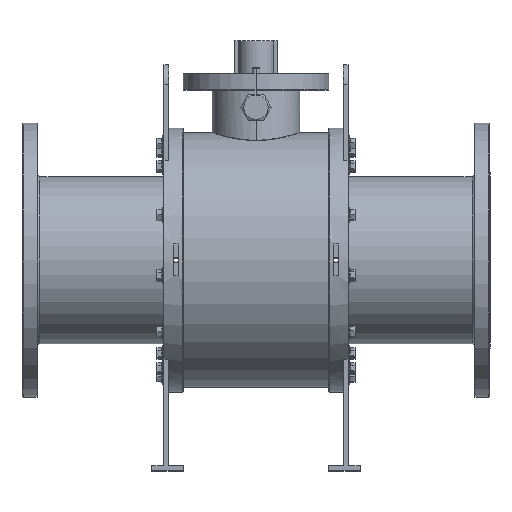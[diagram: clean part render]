
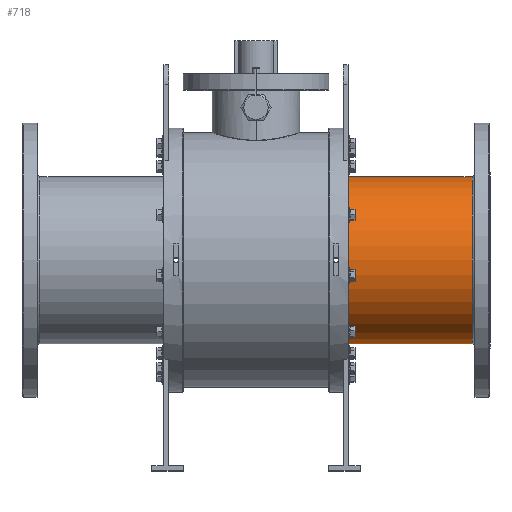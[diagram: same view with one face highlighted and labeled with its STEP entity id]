
A CAD part, top view. The second image highlights one B-rep face of the part: STEP entity #718.
In plain terms, the highlighted cylindrical face has radius 172.5 mm (diameter 345 mm), a partial arc.
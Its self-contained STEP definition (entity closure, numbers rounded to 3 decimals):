
#337 = EDGE_CURVE ( 'NONE', #5944, #6730, #1005, .T. ) ;
#534 = CARTESIAN_POINT ( 'NONE',  ( 445.5, -172.5, 0. ) ) ;
#621 = DIRECTION ( 'NONE',  ( 0., 1., 0. ) ) ;
#718 = ADVANCED_FACE ( 'NONE', ( #11438 ), #6890, .T. ) ;
#978 = EDGE_CURVE ( 'NONE', #5944, #8200, #6418, .T. ) ;
#1005 = CIRCLE ( 'NONE', #8940, 172.5 ) ;
#2599 = DIRECTION ( 'NONE',  ( 0., 0., -1. ) ) ;
#2789 = AXIS2_PLACEMENT_3D ( 'NONE', #13412, #3726, #2599 ) ;
#3169 = CARTESIAN_POINT ( 'NONE',  ( -482.5, 172.5, 0. ) ) ;
#3308 = CARTESIAN_POINT ( 'NONE',  ( 445.5, 172.5, 0. ) ) ;
#3429 = CARTESIAN_POINT ( 'NONE',  ( 190., 172.5, 0. ) ) ;
#3726 = DIRECTION ( 'NONE',  ( 1., 0., 0. ) ) ;
#4843 = DIRECTION ( 'NONE',  ( -1., 0., 0. ) ) ;
#5084 = ORIENTED_EDGE ( 'NONE', *, *, #978, .F. ) ;
#5873 = ORIENTED_EDGE ( 'NONE', *, *, #5931, .T. ) ;
#5931 = EDGE_CURVE ( 'NONE', #6136, #8200, #6176, .T. ) ;
#5944 = VERTEX_POINT ( 'NONE', #534 ) ;
#6136 = VERTEX_POINT ( 'NONE', #3429 ) ;
#6176 = CIRCLE ( 'NONE', #2789, 172.5 ) ;
#6418 = LINE ( 'NONE', #13844, #7557 ) ;
#6730 = VERTEX_POINT ( 'NONE', #3308 ) ;
#6890 = CYLINDRICAL_SURFACE ( 'NONE', #12980, 172.5 ) ;
#6952 = ORIENTED_EDGE ( 'NONE', *, *, #337, .T. ) ;
#7557 = VECTOR ( 'NONE', #12653, 1000. ) ;
#8200 = VERTEX_POINT ( 'NONE', #12634 ) ;
#8561 = LINE ( 'NONE', #3169, #9690 ) ;
#8940 = AXIS2_PLACEMENT_3D ( 'NONE', #11477, #13772, #621 ) ;
#9104 = ORIENTED_EDGE ( 'NONE', *, *, #13674, .T. ) ;
#9690 = VECTOR ( 'NONE', #11608, 1000. ) ;
#11438 = FACE_OUTER_BOUND ( 'NONE', #11766, .T. ) ;
#11477 = CARTESIAN_POINT ( 'NONE',  ( 445.5, 0., 0. ) ) ;
#11608 = DIRECTION ( 'NONE',  ( -1., 0., 0. ) ) ;
#11766 = EDGE_LOOP ( 'NONE', ( #6952, #9104, #5873, #5084 ) ) ;
#12408 = DIRECTION ( 'NONE',  ( 0., -1., 0. ) ) ;
#12634 = CARTESIAN_POINT ( 'NONE',  ( 190., -172.5, 0. ) ) ;
#12653 = DIRECTION ( 'NONE',  ( -1., 0., 0. ) ) ;
#12980 = AXIS2_PLACEMENT_3D ( 'NONE', #13463, #4843, #12408 ) ;
#13412 = CARTESIAN_POINT ( 'NONE',  ( 190., 0., 0. ) ) ;
#13463 = CARTESIAN_POINT ( 'NONE',  ( -482.5, 0., 0. ) ) ;
#13674 = EDGE_CURVE ( 'NONE', #6730, #6136, #8561, .T. ) ;
#13772 = DIRECTION ( 'NONE',  ( -1., 0., 0. ) ) ;
#13844 = CARTESIAN_POINT ( 'NONE',  ( -482.5, -172.5, 0. ) ) ;
